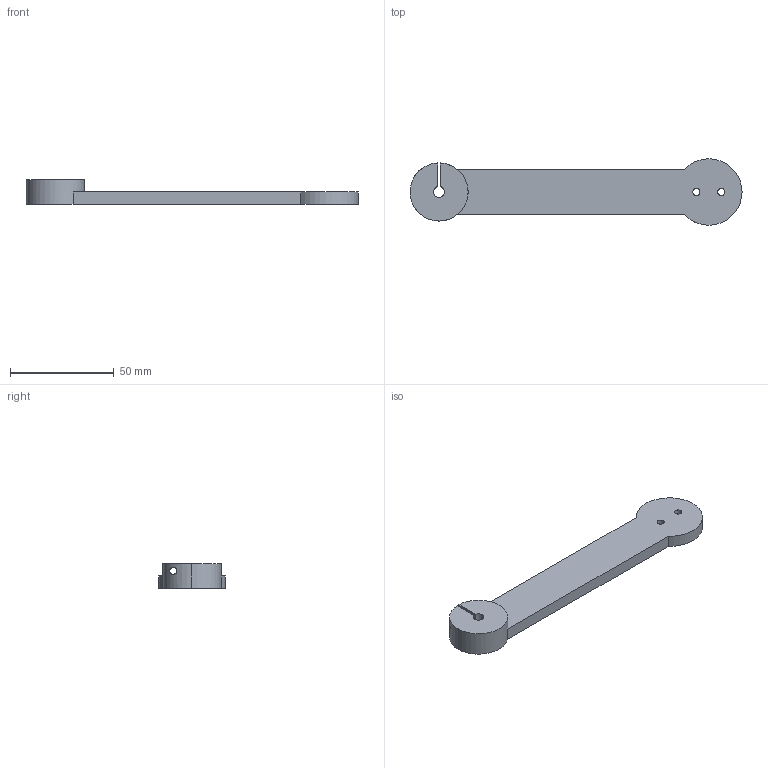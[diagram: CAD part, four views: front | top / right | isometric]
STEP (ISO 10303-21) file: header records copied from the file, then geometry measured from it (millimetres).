
FILE_DESCRIPTION (( 'STEP AP203' ), '1' );
FILE_NAME ('V2_04_arm_plate.STEP', '2026-09-18T10:17:17', ( '15300530775@163.com' ), ( '' ), 'SwSTEP 2.0', 'SolidWorks 2026', '' );
FILE_SCHEMA (( 'CONFIG_CONTROL_DESIGN' ));
Length unit declared in the file: millimetre
Products named in the file (1): V2_04_arm_plate
Bounding box: 160 x 31.98 x 12 mm (x, y, z)
Volume: 25097.8 mm3; surface area: 10685.2 mm2
Topology: 1 solids, 1 shells, 22 faces, 60 edges, 40 vertices
Faces by surface type: cylinder 15, plane 7
Entity records: 989 total; most frequent: CARTESIAN_POINT 336, ORIENTED_EDGE 120, DIRECTION 116, EDGE_CURVE 60, AXIS2_PLACEMENT_3D 44, VERTEX_POINT 40, EDGE_LOOP 30, VECTOR 28
